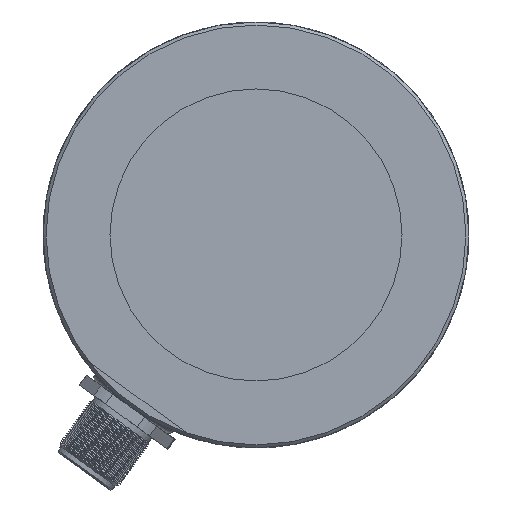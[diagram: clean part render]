
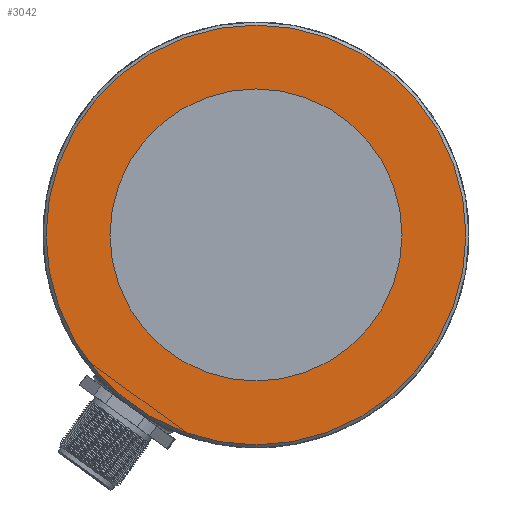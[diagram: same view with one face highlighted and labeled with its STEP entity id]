
A CAD part, left-side view. The second image highlights one B-rep face of the part: STEP entity #3042.
In plain terms, the highlighted planar face has unit normal (-1, 0, 0).
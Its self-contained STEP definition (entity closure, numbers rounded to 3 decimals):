
#408=PLANE('',#3281);
#723=VERTEX_POINT('',#3603);
#744=VERTEX_POINT('',#3699);
#1006=CIRCLE('',#3273,34.5);
#1014=CIRCLE('',#3282,24.);
#1169=EDGE_CURVE('',#723,#723,#1006,.T.);
#1190=EDGE_CURVE('',#744,#744,#1014,.T.);
#1588=ORIENTED_EDGE('',*,*,#1190,.T.);
#1589=ORIENTED_EDGE('',*,*,#1169,.F.);
#2367=EDGE_LOOP('',(#1588));
#2368=EDGE_LOOP('',(#1589));
#2708=FACE_BOUND('',#2367,.T.);
#2709=FACE_BOUND('',#2368,.T.);
#3042=ADVANCED_FACE('',(#2708,#2709),#408,.F.);
#3273=AXIS2_PLACEMENT_3D('',#3602,#4868,#4869);
#3281=AXIS2_PLACEMENT_3D('',#3697,#4892,$);
#3282=AXIS2_PLACEMENT_3D('',#3698,#4893,#4894);
#3602=CARTESIAN_POINT('',(-25.,0.,0.));
#3603=CARTESIAN_POINT('',(-25.,0.,-34.5));
#3697=CARTESIAN_POINT('',(-25.,0.,0.));
#3698=CARTESIAN_POINT('',(-25.,0.,0.));
#3699=CARTESIAN_POINT('',(-25.,0.,-24.));
#4868=DIRECTION('',(1.,0.,0.));
#4869=DIRECTION('',(0.,0.,34.5));
#4892=DIRECTION('',(1.,0.,0.));
#4893=DIRECTION('',(1.,0.,0.));
#4894=DIRECTION('',(0.,0.,-24.));
